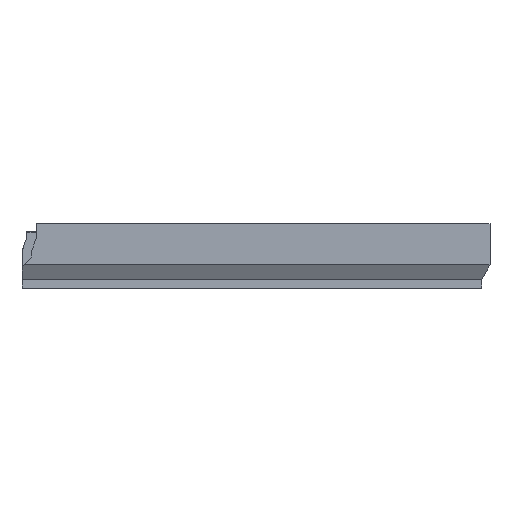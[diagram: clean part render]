
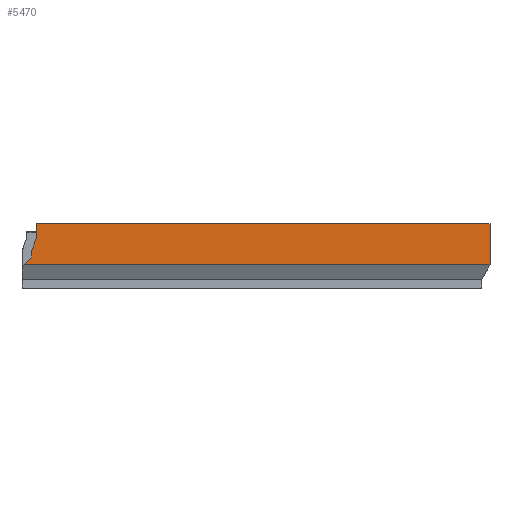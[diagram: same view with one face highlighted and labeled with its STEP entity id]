
A CAD part, front view. The second image highlights one B-rep face of the part: STEP entity #5470.
In plain terms, the highlighted planar face has unit normal (0, -1, 0).
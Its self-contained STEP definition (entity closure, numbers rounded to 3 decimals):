
#1201 = PLANE('',#1202);
#1202 = AXIS2_PLACEMENT_3D('',#1203,#1204,#1205);
#1203 = CARTESIAN_POINT('',(6.1,-177.5,23.35));
#1204 = DIRECTION('',(-1.,0.,0.));
#1205 = DIRECTION('',(0.,-1.,0.));
#1300 = PLANE('',#1301);
#1301 = AXIS2_PLACEMENT_3D('',#1302,#1303,#1304);
#1302 = CARTESIAN_POINT('',(0.,-3.046,26.9));
#1303 = DIRECTION('',(0.,0.,1.));
#1304 = DIRECTION('',(1.,0.,-0.));
#1388 = VERTEX_POINT('',#1389);
#1389 = CARTESIAN_POINT('',(6.1,-179.2,21.));
#1403 = PLANE('',#1404);
#1404 = AXIS2_PLACEMENT_3D('',#1405,#1406,#1407);
#1405 = CARTESIAN_POINT('',(6.1,-177.5,21.));
#1406 = DIRECTION('',(-0.94,0.,0.342));
#1407 = DIRECTION('',(0.,-1.,0.));
#1415 = EDGE_CURVE('',#1388,#1416,#1418,.T.);
#1416 = VERTEX_POINT('',#1417);
#1417 = CARTESIAN_POINT('',(6.1,-179.2,26.9));
#1418 = SURFACE_CURVE('',#1419,(#1423,#1429),.PCURVE_S1.);
#1419 = LINE('',#1420,#1421);
#1420 = CARTESIAN_POINT('',(6.1,-179.2,24.15));
#1421 = VECTOR('',#1422,1.);
#1422 = DIRECTION('',(0.,-0.,1.));
#1423 = PCURVE('',#1201,#1424);
#1424 = DEFINITIONAL_REPRESENTATION('',(#1425),#1428);
#1425 = B_SPLINE_CURVE_WITH_KNOTS('',1,(#1426,#1427),.UNSPECIFIED.,.F.,
  .F.,(2,2),(-3.15,2.75),.PIECEWISE_BEZIER_KNOTS.);
#1426 = CARTESIAN_POINT('',(1.7,-2.35));
#1427 = CARTESIAN_POINT('',(1.7,3.55));
#1428 = ( GEOMETRIC_REPRESENTATION_CONTEXT(2) 
PARAMETRIC_REPRESENTATION_CONTEXT() REPRESENTATION_CONTEXT('2D SPACE',''
  ) );
#1429 = PCURVE('',#1430,#1435);
#1430 = PLANE('',#1431);
#1431 = AXIS2_PLACEMENT_3D('',#1432,#1433,#1434);
#1432 = CARTESIAN_POINT('',(-195.2,-179.2,24.95));
#1433 = DIRECTION('',(0.,1.,0.));
#1434 = DIRECTION('',(1.,0.,0.));
#1435 = DEFINITIONAL_REPRESENTATION('',(#1436),#1439);
#1436 = B_SPLINE_CURVE_WITH_KNOTS('',1,(#1437,#1438),.UNSPECIFIED.,.F.,
  .F.,(2,2),(-3.15,2.75),.PIECEWISE_BEZIER_KNOTS.);
#1437 = CARTESIAN_POINT('',(201.3,3.95));
#1438 = CARTESIAN_POINT('',(201.3,-1.95));
#1439 = ( GEOMETRIC_REPRESENTATION_CONTEXT(2) 
PARAMETRIC_REPRESENTATION_CONTEXT() REPRESENTATION_CONTEXT('2D SPACE',''
  ) );
#5144 = PLANE('',#5145);
#5145 = AXIS2_PLACEMENT_3D('',#5146,#5147,#5148);
#5146 = CARTESIAN_POINT('',(195.2,-179.2,24.95));
#5147 = DIRECTION('',(-1.,0.,0.));
#5148 = DIRECTION('',(0.,1.,0.));
#5248 = EDGE_CURVE('',#1416,#5249,#5251,.T.);
#5249 = VERTEX_POINT('',#5250);
#5250 = CARTESIAN_POINT('',(195.2,-179.2,26.9));
#5251 = SURFACE_CURVE('',#5252,(#5256,#5263),.PCURVE_S1.);
#5252 = LINE('',#5253,#5254);
#5253 = CARTESIAN_POINT('',(-195.2,-179.2,26.9));
#5254 = VECTOR('',#5255,1.);
#5255 = DIRECTION('',(1.,0.,0.));
#5256 = PCURVE('',#1300,#5257);
#5257 = DEFINITIONAL_REPRESENTATION('',(#5258),#5262);
#5258 = LINE('',#5259,#5260);
#5259 = CARTESIAN_POINT('',(-195.2,-176.154));
#5260 = VECTOR('',#5261,1.);
#5261 = DIRECTION('',(1.,0.));
#5262 = ( GEOMETRIC_REPRESENTATION_CONTEXT(2) 
PARAMETRIC_REPRESENTATION_CONTEXT() REPRESENTATION_CONTEXT('2D SPACE',''
  ) );
#5263 = PCURVE('',#1430,#5264);
#5264 = DEFINITIONAL_REPRESENTATION('',(#5265),#5269);
#5265 = LINE('',#5266,#5267);
#5266 = CARTESIAN_POINT('',(0.,-1.95));
#5267 = VECTOR('',#5268,1.);
#5268 = DIRECTION('',(1.,0.));
#5269 = ( GEOMETRIC_REPRESENTATION_CONTEXT(2) 
PARAMETRIC_REPRESENTATION_CONTEXT() REPRESENTATION_CONTEXT('2D SPACE',''
  ) );
#5341 = PLANE('',#5342);
#5342 = AXIS2_PLACEMENT_3D('',#5343,#5344,#5345);
#5343 = CARTESIAN_POINT('',(4.1,-177.5,13.));
#5344 = DIRECTION('',(-0.73,0.,0.684));
#5345 = DIRECTION('',(0.,-1.,0.));
#5366 = PLANE('',#5367);
#5367 = AXIS2_PLACEMENT_3D('',#5368,#5369,#5370);
#5368 = CARTESIAN_POINT('',(4.1,-177.5,15.5));
#5369 = DIRECTION('',(-1.,0.,0.));
#5370 = DIRECTION('',(0.,-1.,0.));
#5470 = ADVANCED_FACE('',(#5471),#1430,.F.);
#5471 = FACE_BOUND('',#5472,.F.);
#5472 = EDGE_LOOP('',(#5473,#5496,#5524,#5545,#5566,#5585,#5586));
#5473 = ORIENTED_EDGE('',*,*,#5474,.F.);
#5474 = EDGE_CURVE('',#5475,#5249,#5477,.T.);
#5475 = VERTEX_POINT('',#5476);
#5476 = CARTESIAN_POINT('',(195.2,-179.2,9.762));
#5477 = SURFACE_CURVE('',#5478,(#5482,#5489),.PCURVE_S1.);
#5478 = LINE('',#5479,#5480);
#5479 = CARTESIAN_POINT('',(195.2,-179.2,9.762));
#5480 = VECTOR('',#5481,1.);
#5481 = DIRECTION('',(0.,0.,1.));
#5482 = PCURVE('',#1430,#5483);
#5483 = DEFINITIONAL_REPRESENTATION('',(#5484),#5488);
#5484 = LINE('',#5485,#5486);
#5485 = CARTESIAN_POINT('',(390.4,15.188));
#5486 = VECTOR('',#5487,1.);
#5487 = DIRECTION('',(0.,-1.));
#5488 = ( GEOMETRIC_REPRESENTATION_CONTEXT(2) 
PARAMETRIC_REPRESENTATION_CONTEXT() REPRESENTATION_CONTEXT('2D SPACE',''
  ) );
#5489 = PCURVE('',#5144,#5490);
#5490 = DEFINITIONAL_REPRESENTATION('',(#5491),#5495);
#5491 = LINE('',#5492,#5493);
#5492 = CARTESIAN_POINT('',(0.,15.188));
#5493 = VECTOR('',#5494,1.);
#5494 = DIRECTION('',(0.,-1.));
#5495 = ( GEOMETRIC_REPRESENTATION_CONTEXT(2) 
PARAMETRIC_REPRESENTATION_CONTEXT() REPRESENTATION_CONTEXT('2D SPACE',''
  ) );
#5496 = ORIENTED_EDGE('',*,*,#5497,.F.);
#5497 = EDGE_CURVE('',#5498,#5475,#5500,.T.);
#5498 = VERTEX_POINT('',#5499);
#5499 = CARTESIAN_POINT('',(1.065,-179.2,9.762));
#5500 = SURFACE_CURVE('',#5501,(#5505,#5512),.PCURVE_S1.);
#5501 = LINE('',#5502,#5503);
#5502 = CARTESIAN_POINT('',(-195.2,-179.2,9.762));
#5503 = VECTOR('',#5504,1.);
#5504 = DIRECTION('',(1.,0.,0.));
#5505 = PCURVE('',#1430,#5506);
#5506 = DEFINITIONAL_REPRESENTATION('',(#5507),#5511);
#5507 = LINE('',#5508,#5509);
#5508 = CARTESIAN_POINT('',(0.,15.188));
#5509 = VECTOR('',#5510,1.);
#5510 = DIRECTION('',(1.,0.));
#5511 = ( GEOMETRIC_REPRESENTATION_CONTEXT(2) 
PARAMETRIC_REPRESENTATION_CONTEXT() REPRESENTATION_CONTEXT('2D SPACE',''
  ) );
#5512 = PCURVE('',#5513,#5518);
#5513 = PLANE('',#5514);
#5514 = AXIS2_PLACEMENT_3D('',#5515,#5516,#5517);
#5515 = CARTESIAN_POINT('',(0.,-177.45,6.731));
#5516 = DIRECTION('',(0.,-0.866,-0.5));
#5517 = DIRECTION('',(1.,0.,0.));
#5518 = DEFINITIONAL_REPRESENTATION('',(#5519),#5523);
#5519 = LINE('',#5520,#5521);
#5520 = CARTESIAN_POINT('',(-195.2,3.5));
#5521 = VECTOR('',#5522,1.);
#5522 = DIRECTION('',(1.,0.));
#5523 = ( GEOMETRIC_REPRESENTATION_CONTEXT(2) 
PARAMETRIC_REPRESENTATION_CONTEXT() REPRESENTATION_CONTEXT('2D SPACE',''
  ) );
#5524 = ORIENTED_EDGE('',*,*,#5525,.T.);
#5525 = EDGE_CURVE('',#5498,#5526,#5528,.T.);
#5526 = VERTEX_POINT('',#5527);
#5527 = CARTESIAN_POINT('',(4.1,-179.2,13.));
#5528 = SURFACE_CURVE('',#5529,(#5533,#5539),.PCURVE_S1.);
#5529 = LINE('',#5530,#5531);
#5530 = CARTESIAN_POINT('',(-39.533,-179.2,-33.541));
#5531 = VECTOR('',#5532,1.);
#5532 = DIRECTION('',(0.684,-0.,0.73));
#5533 = PCURVE('',#1430,#5534);
#5534 = DEFINITIONAL_REPRESENTATION('',(#5535),#5538);
#5535 = B_SPLINE_CURVE_WITH_KNOTS('',1,(#5536,#5537),.UNSPECIFIED.,.F.,
  .F.,(2,2),(59.358,63.796),.PIECEWISE_BEZIER_KNOTS.);
#5536 = CARTESIAN_POINT('',(196.265,15.188));
#5537 = CARTESIAN_POINT('',(199.3,11.95));
#5538 = ( GEOMETRIC_REPRESENTATION_CONTEXT(2) 
PARAMETRIC_REPRESENTATION_CONTEXT() REPRESENTATION_CONTEXT('2D SPACE',''
  ) );
#5539 = PCURVE('',#5341,#5540);
#5540 = DEFINITIONAL_REPRESENTATION('',(#5541),#5544);
#5541 = B_SPLINE_CURVE_WITH_KNOTS('',1,(#5542,#5543),.UNSPECIFIED.,.F.,
  .F.,(2,2),(59.358,63.796),.PIECEWISE_BEZIER_KNOTS.);
#5542 = CARTESIAN_POINT('',(1.7,-4.438));
#5543 = CARTESIAN_POINT('',(1.7,0.));
#5544 = ( GEOMETRIC_REPRESENTATION_CONTEXT(2) 
PARAMETRIC_REPRESENTATION_CONTEXT() REPRESENTATION_CONTEXT('2D SPACE',''
  ) );
#5545 = ORIENTED_EDGE('',*,*,#5546,.T.);
#5546 = EDGE_CURVE('',#5526,#5547,#5549,.T.);
#5547 = VERTEX_POINT('',#5548);
#5548 = CARTESIAN_POINT('',(4.1,-179.2,15.5));
#5549 = SURFACE_CURVE('',#5550,(#5554,#5560),.PCURVE_S1.);
#5550 = LINE('',#5551,#5552);
#5551 = CARTESIAN_POINT('',(4.1,-179.2,20.225));
#5552 = VECTOR('',#5553,1.);
#5553 = DIRECTION('',(0.,-0.,1.));
#5554 = PCURVE('',#1430,#5555);
#5555 = DEFINITIONAL_REPRESENTATION('',(#5556),#5559);
#5556 = B_SPLINE_CURVE_WITH_KNOTS('',1,(#5557,#5558),.UNSPECIFIED.,.F.,
  .F.,(2,2),(-7.225,-4.725),.PIECEWISE_BEZIER_KNOTS.);
#5557 = CARTESIAN_POINT('',(199.3,11.95));
#5558 = CARTESIAN_POINT('',(199.3,9.45));
#5559 = ( GEOMETRIC_REPRESENTATION_CONTEXT(2) 
PARAMETRIC_REPRESENTATION_CONTEXT() REPRESENTATION_CONTEXT('2D SPACE',''
  ) );
#5560 = PCURVE('',#5366,#5561);
#5561 = DEFINITIONAL_REPRESENTATION('',(#5562),#5565);
#5562 = B_SPLINE_CURVE_WITH_KNOTS('',1,(#5563,#5564),.UNSPECIFIED.,.F.,
  .F.,(2,2),(-7.225,-4.725),.PIECEWISE_BEZIER_KNOTS.);
#5563 = CARTESIAN_POINT('',(1.7,-2.5));
#5564 = CARTESIAN_POINT('',(1.7,0.));
#5565 = ( GEOMETRIC_REPRESENTATION_CONTEXT(2) 
PARAMETRIC_REPRESENTATION_CONTEXT() REPRESENTATION_CONTEXT('2D SPACE',''
  ) );
#5566 = ORIENTED_EDGE('',*,*,#5567,.T.);
#5567 = EDGE_CURVE('',#5547,#1388,#5568,.T.);
#5568 = SURFACE_CURVE('',#5569,(#5573,#5579),.PCURVE_S1.);
#5569 = LINE('',#5570,#5571);
#5570 = CARTESIAN_POINT('',(-5.02,-179.2,-9.581));
#5571 = VECTOR('',#5572,1.);
#5572 = DIRECTION('',(0.342,-0.,0.94));
#5573 = PCURVE('',#1430,#5574);
#5574 = DEFINITIONAL_REPRESENTATION('',(#5575),#5578);
#5575 = B_SPLINE_CURVE_WITH_KNOTS('',1,(#5576,#5577),.UNSPECIFIED.,.F.,
  .F.,(2,2),(26.688,32.54),.PIECEWISE_BEZIER_KNOTS.);
#5576 = CARTESIAN_POINT('',(199.3,9.45));
#5577 = CARTESIAN_POINT('',(201.3,3.95));
#5578 = ( GEOMETRIC_REPRESENTATION_CONTEXT(2) 
PARAMETRIC_REPRESENTATION_CONTEXT() REPRESENTATION_CONTEXT('2D SPACE',''
  ) );
#5579 = PCURVE('',#1403,#5580);
#5580 = DEFINITIONAL_REPRESENTATION('',(#5581),#5584);
#5581 = B_SPLINE_CURVE_WITH_KNOTS('',1,(#5582,#5583),.UNSPECIFIED.,.F.,
  .F.,(2,2),(26.688,32.54),.PIECEWISE_BEZIER_KNOTS.);
#5582 = CARTESIAN_POINT('',(1.7,-5.852));
#5583 = CARTESIAN_POINT('',(1.7,0.));
#5584 = ( GEOMETRIC_REPRESENTATION_CONTEXT(2) 
PARAMETRIC_REPRESENTATION_CONTEXT() REPRESENTATION_CONTEXT('2D SPACE',''
  ) );
#5585 = ORIENTED_EDGE('',*,*,#1415,.T.);
#5586 = ORIENTED_EDGE('',*,*,#5248,.T.);
